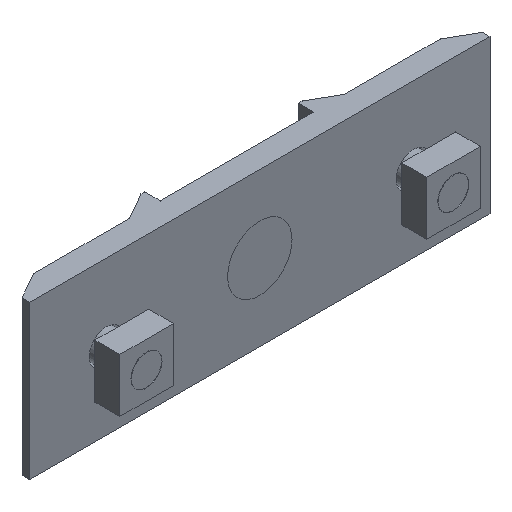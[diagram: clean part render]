
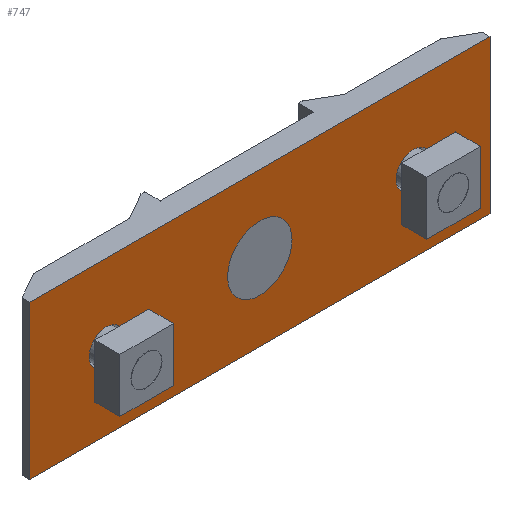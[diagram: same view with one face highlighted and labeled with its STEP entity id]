
A CAD part, isometric view. The second image highlights one B-rep face of the part: STEP entity #747.
In plain terms, the highlighted planar face has unit normal (0, -1, 0).
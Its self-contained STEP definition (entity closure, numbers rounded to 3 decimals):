
#123=CARTESIAN_POINT('',(-44.5,0.0,0.0));
#124=VERTEX_POINT('',#123);
#125=CARTESIAN_POINT('',(-40.,0.0,0.0));
#126=DIRECTION('',(0.0,1.0,0.0));
#127=DIRECTION('',(-1.0,0.0,0.0));
#128=AXIS2_PLACEMENT_3D('',#125,#126,#127);
#129=CIRCLE('',#128,4.5);
#130=EDGE_CURVE('',#124,#124,#129,.T.);
#172=CARTESIAN_POINT('',(44.5,0.0,0.0));
#173=VERTEX_POINT('',#172);
#174=CARTESIAN_POINT('',(40.,0.0,0.0));
#175=DIRECTION('',(0.0,1.0,0.0));
#176=DIRECTION('',(1.0,0.0,0.0));
#177=AXIS2_PLACEMENT_3D('',#174,#175,#176);
#178=CIRCLE('',#177,4.5);
#179=EDGE_CURVE('',#173,#173,#178,.T.);
#210=CARTESIAN_POINT('',(8.4,0.0,0.0));
#211=VERTEX_POINT('',#210);
#212=CARTESIAN_POINT('',(0.0,0.0,0.0));
#213=DIRECTION('',(0.0,1.0,0.0));
#214=DIRECTION('',(1.0,0.0,0.0));
#215=AXIS2_PLACEMENT_3D('',#212,#213,#214);
#216=CIRCLE('',#215,8.4);
#217=EDGE_CURVE('',#211,#211,#216,.T.);
#279=CARTESIAN_POINT('',(60.,0.0,-20.));
#280=VERTEX_POINT('',#279);
#289=CARTESIAN_POINT('',(-60.,0.0,-20.));
#290=VERTEX_POINT('',#289);
#291=CARTESIAN_POINT('',(-60.,0.0,-20.));
#292=DIRECTION('',(1.0,0.0,0.0));
#293=VECTOR('',#292,120.);
#294=LINE('',#291,#293);
#295=EDGE_CURVE('',#290,#280,#294,.T.);
#399=CARTESIAN_POINT('',(-60.,0.0,20.));
#400=VERTEX_POINT('',#399);
#416=CARTESIAN_POINT('',(-60.,0.0,20.));
#417=DIRECTION('',(0.0,0.0,-1.0));
#418=VECTOR('',#417,40.);
#419=LINE('',#416,#418);
#420=EDGE_CURVE('',#400,#290,#419,.T.);
#703=CARTESIAN_POINT('',(60.,0.0,20.));
#704=VERTEX_POINT('',#703);
#711=CARTESIAN_POINT('',(60.,0.0,-20.));
#712=DIRECTION('',(0.0,0.0,1.0));
#713=VECTOR('',#712,40.);
#714=LINE('',#711,#713);
#715=EDGE_CURVE('',#280,#704,#714,.T.);
#722=CARTESIAN_POINT('',(60.,0.0,0.0));
#723=DIRECTION('',(0.0,-1.0,0.0));
#724=DIRECTION('',(0.0,0.0,-1.0));
#725=AXIS2_PLACEMENT_3D('',#722,#723,#724);
#726=PLANE('',#725);
#727=CARTESIAN_POINT('',(60.,0.0,20.));
#728=DIRECTION('',(-1.0,0.0,0.0));
#729=VECTOR('',#728,120.);
#730=LINE('',#727,#729);
#731=EDGE_CURVE('',#704,#400,#730,.T.);
#732=ORIENTED_EDGE('',*,*,#731,.T.);
#733=ORIENTED_EDGE('',*,*,#420,.T.);
#734=ORIENTED_EDGE('',*,*,#295,.T.);
#735=ORIENTED_EDGE('',*,*,#715,.T.);
#736=EDGE_LOOP('',(#732,#733,#734,#735));
#737=FACE_OUTER_BOUND('',#736,.T.);
#738=ORIENTED_EDGE('',*,*,#130,.T.);
#739=EDGE_LOOP('',(#738));
#740=FACE_BOUND('',#739,.T.);
#741=ORIENTED_EDGE('',*,*,#179,.T.);
#742=EDGE_LOOP('',(#741));
#743=FACE_BOUND('',#742,.T.);
#744=ORIENTED_EDGE('',*,*,#217,.T.);
#745=EDGE_LOOP('',(#744));
#746=FACE_BOUND('',#745,.T.);
#747=ADVANCED_FACE('',(#737,#740,#743,#746),#726,.T.);
